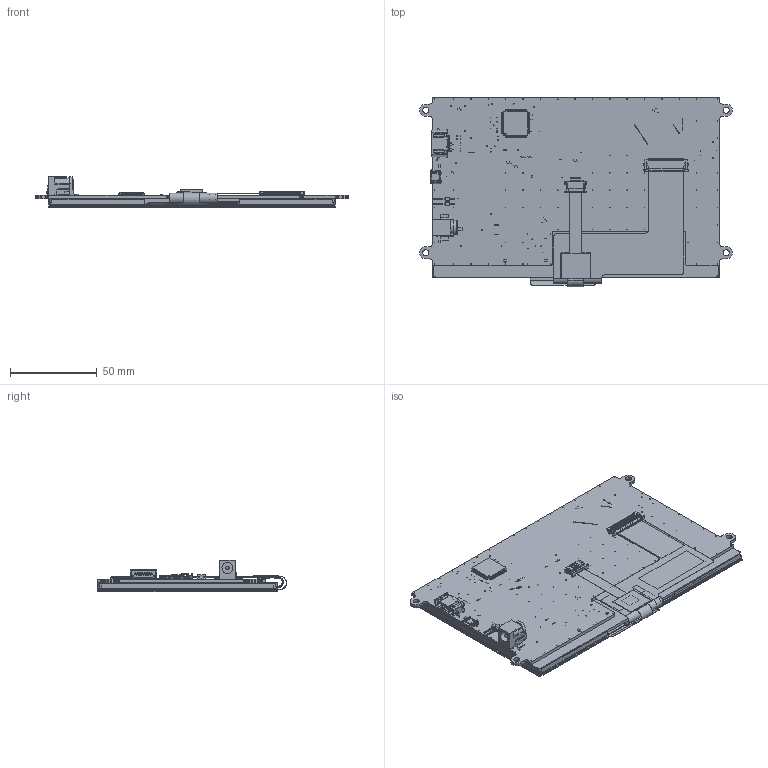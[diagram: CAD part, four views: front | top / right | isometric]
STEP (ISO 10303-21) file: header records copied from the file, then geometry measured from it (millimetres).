
FILE_DESCRIPTION (( 'STEP AP203' ), '1' );
FILE_NAME ('NHD-7.0-HDMI-N-RSXP-CTU.STEP', '2024-07-15T19:08:08', ( '' ), ( '' ), 'SwSTEP 2.0', 'SolidWorks 2019', '' );
FILE_SCHEMA (( 'CONFIG_CONTROL_DESIGN' ));
Products named in the file (2): NHD-7.0-HDMI-N-RSXP-CTU
Bounding box: 180.1 x 109.07 x 18.35 mm (x, y, z)
Surface area: 235179.5 mm2 (no closed solid volume)
Topology: 0 solids, 37 shells, 7343 faces, 22027 edges, 14464 vertices
Faces by surface type: plane 5298, cylinder 1968, bspline 53, cone 14, torus 10
Entity records: 248650 total; most frequent: CARTESIAN_POINT 47304, ORIENTED_EDGE 43294, DIRECTION 39884, EDGE_CURVE 22024, VECTOR 17438, LINE 17438, VERTEX_POINT 14464, AXIS2_PLACEMENT_3D 11223
